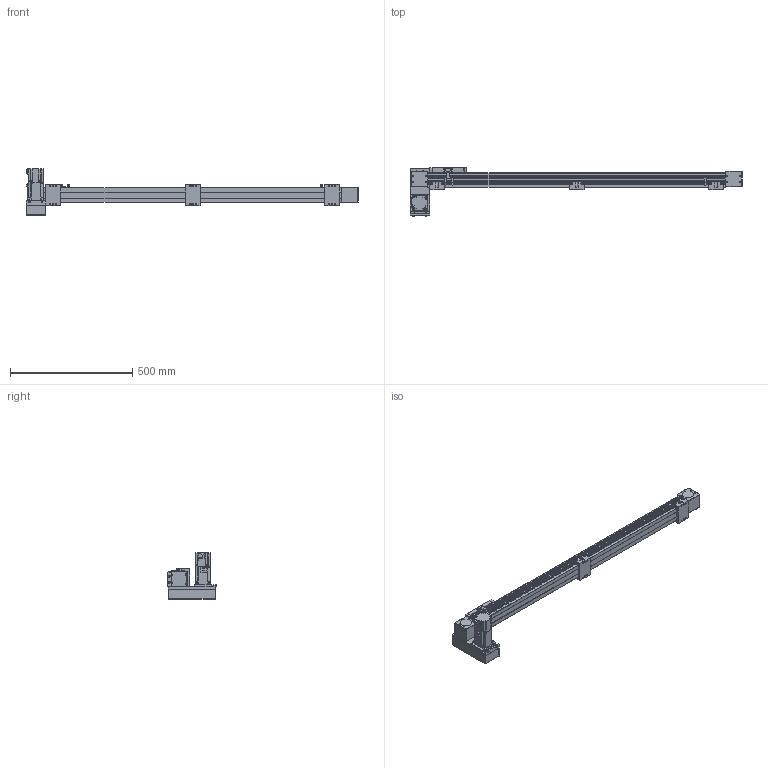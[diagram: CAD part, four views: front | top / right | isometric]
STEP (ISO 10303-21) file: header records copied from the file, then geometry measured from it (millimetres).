
FILE_DESCRIPTION(/* description */ ('STEP AP214'),/* implementation_level */ '2;1');
FILE_NAME(/* name */ 'SK60-P13-S1050-LD-T40-C1-N(0)',/* time_stamp */ '2023-04-06T04:38:39+02:00',/* author */ ('License CC BY-ND 4.0'),/* organization */ ('CADENAS'),/* preprocessor_version */ 'ST-DEVELOPER v19.3',/* originating_system */ 'PARTsolutions',/* authorisation */ ' ');
FILE_SCHEMA (('AUTOMOTIVE_DESIGN {1 0 10303 214 3 1 1}'));
Length unit declared in the file: millimetre
Products named in the file (10): SK60-P13-S1050-LD-T40-C1-N(0); PSC140-sensor; SK60-S450_seat; SK60-S450-BL-C1_slider; SK60_body3; SK60_body6; SK60-BL_body2; T40-p1; SK60-LD_fb; SK60-S1050-LD-C1_body
Assembly tree (17 placements, depth 2):
  SK60-P13-S1050-LD-T40-C1-N(0)
    PSC140-sensor  x3
    SK60-S450_seat  x3
    SK60-S450-BL-C1_slider
    SK60_body3  x3
    SK60_body6  x2
    SK60-BL_body2  x2
    T40-p1
    SK60-LD_fb
    SK60-S1050-LD-C1_body
Bounding box: 1355.5 x 199 x 189.7 mm (x, y, z)
Volume: 5830485.9 mm3; surface area: 734690.4 mm2
Topology: 17 solids, 17 shells, 854 faces, 2146 edges, 1413 vertices
Faces by surface type: plane 548, cylinder 278, cone 26, torus 2
Full cylindrical faces by diameter (mm): 2.8 x3, 3.3 x4, 4 x2, 4.5 x30, 4.6 x3, 4.917 x20, 5 x6, 5.478 x4, 5.5 x23, 6.5 x6, 7 x2, 8 x4, 8.5 x4, 9.988 x4, 10 x12, 14 x1, 47 x3, 50 x2
Entity records: 18663 total; most frequent: DIRECTION 3186, CARTESIAN_POINT 3151, ORIENTED_EDGE 2940, EDGE_CURVE 1470, AXIS2_PLACEMENT_3D 1069, LINE 1048, VECTOR 1048, VERTEX_POINT 1034
